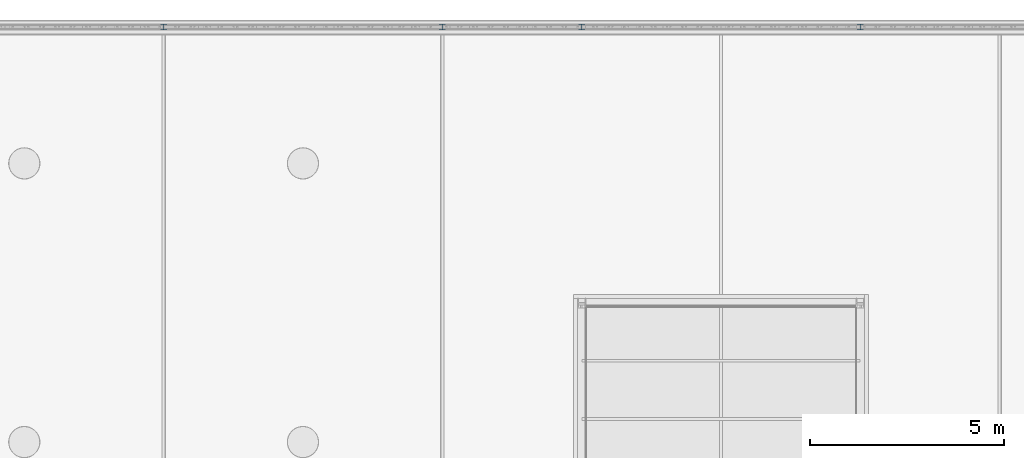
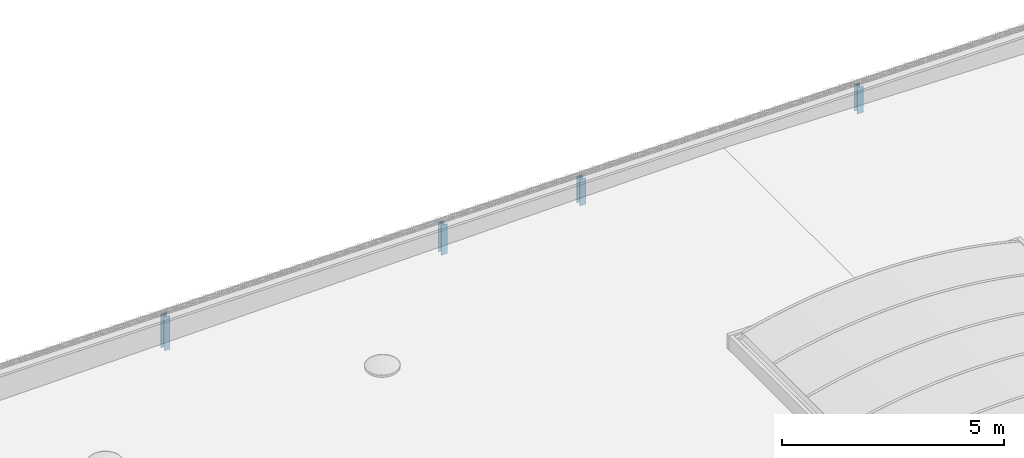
# One storey, part 29 of 81: 4 columns.
"""IFC2X3 building model written with IfcOpenShell, lengths in millimetres."""

from ifc_helpers import new_model, entity, si_unit, converted_unit, derived_unit, money_unit, direction, frame, origin_with_axes, place, context, subcontext, project, spatial, faceted_brep, material, type_object, element, save


model = new_model("IFC2X3")

# Units and contexts
model_context = context("Model", 3, precision=0.01, world=origin_with_axes(), true_north=direction((0.0, 1.0)))
body_context = subcontext(model_context, "Body", "Model", "MODEL_VIEW")
ifc_project = project(units=[si_unit("LENGTHUNIT", "METRE", prefix="MILLI"), si_unit("AREAUNIT", "SQUARE_METRE"), si_unit("VOLUMEUNIT", "CUBIC_METRE"), converted_unit("PLANEANGLEUNIT", "DEGREE", entity("IfcPlaneAngleMeasure", 0.0174532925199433), si_unit("PLANEANGLEUNIT", "RADIAN"), dimensions=[0, 0, 0, 0, 0, 0, 0]), money_unit("EUR"), converted_unit("TIMEUNIT", "Year", entity("IfcTimeMeasure", 31557600.0), si_unit("TIMEUNIT", "SECOND"), dimensions=[0, 0, 1, 0, 0, 0, 0]), si_unit("MASSUNIT", "GRAM", prefix="KILO"), si_unit("THERMODYNAMICTEMPERATUREUNIT", "DEGREE_CELSIUS"), si_unit("LUMINOUSINTENSITYUNIT", "LUMEN"), si_unit("ENERGYUNIT", "JOULE", prefix="MEGA"), derived_unit("THERMALCONDUCTANCEUNIT", [(si_unit("POWERUNIT", "WATT"), 1), (si_unit("LENGTHUNIT", "METRE"), -1), (si_unit("THERMODYNAMICTEMPERATUREUNIT", "KELVIN"), -1)]), derived_unit("SPECIFICHEATCAPACITYUNIT", [(si_unit("ENERGYUNIT", "JOULE"), 1), (si_unit("MASSUNIT", "GRAM", prefix="KILO"), -1), (si_unit("THERMODYNAMICTEMPERATUREUNIT", "KELVIN"), -1)]), derived_unit("MASSDENSITYUNIT", [(si_unit("MASSUNIT", "GRAM", prefix="KILO"), 1), (si_unit("VOLUMEUNIT", "CUBIC_METRE"), -1)])], contexts=[model_context])

# Site, building, storey
site_placement = place(None, origin_with_axes())
site = spatial("IfcSite", under=ifc_project, at=site_placement, Name="Site", CompositionType="ELEMENT")
building_placement = place(site_placement, origin_with_axes())
building = spatial("IfcBuilding", under=site, at=building_placement, Name="Naam gebouw", CompositionType="ELEMENT")
storey_placement = place(building_placement, frame((0.0, 0.0, 15320.0), z_axis=(0.0, 0.0, 1.0), x_axis=(1.0, 0.0, 0.0)))
storey = spatial("IfcBuildingStorey", under=building, at=storey_placement, Name="01 dak", CompositionType="ELEMENT", Elevation=15320.0)

# Columns
ifc_material = material(Name="Metaal - Staal C")
column_type = type_object("IfcColumnType", Name="HEA160 160 x 152", PredefinedType="COLUMN")
column_1_placement = place(storey_placement, frame((90899.99999999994, 119524.0, -271.9226341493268), z_axis=(0.0, 0.0, 1.0), x_axis=(1.0, 0.0, 0.0)))
element("IfcColumn", 1, at=column_1_placement, inside=storey, type_object=column_type, material=ifc_material, Name="HEA160", ObjectType="COLUMN", context=body_context, shape_type="Brep", body=[
    faceted_brep([(-79.9999999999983, 75.9999999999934, 926.8832744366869), (-79.9999999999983, 75.9999999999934, 0.0), (-79.9999999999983, 66.99999999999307, 0.0), (-79.9999999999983, 66.99999999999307, 926.8832744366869), (79.9999999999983, 75.9999999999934, 926.8832744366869), (79.9999999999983, 75.9999999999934, 0.0), (79.9999999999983, 66.99999999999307, 0.0), (3.000000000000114, 66.99999999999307, 0.0), (3.000000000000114, -66.99999999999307, 0.0), (79.9999999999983, -66.99999999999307, 0.0), (79.9999999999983, -75.9999999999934, 0.0), (-79.9999999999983, -75.9999999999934, 0.0), (-79.9999999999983, -66.99999999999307, 0.0), (-3.000000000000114, -66.99999999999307, 0.0), (-3.000000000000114, 66.99999999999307, 0.0), (-3.000000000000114, 66.99999999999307, 926.8832744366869), (-3.000000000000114, -66.99999999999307, 926.8832744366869), (-79.9999999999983, -66.99999999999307, 926.8832744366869), (-79.9999999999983, -75.9999999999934, 926.8832744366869), (79.9999999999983, -75.9999999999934, 926.8832744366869), (79.9999999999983, -66.99999999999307, 926.8832744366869), (3.000000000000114, -66.99999999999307, 926.8832744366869), (3.000000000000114, 66.99999999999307, 926.8832744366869), (79.9999999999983, 66.99999999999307, 926.8832744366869)], [[[0, 1, 2, 3]], [[4, 5, 1, 0]], [[2, 1, 5, 6, 7, 8, 9, 10, 11, 12, 13, 14]], [[3, 2, 14, 15]], [[4, 0, 3, 15, 16, 17, 18, 19, 20, 21, 22, 23]], [[23, 6, 5, 4]], [[22, 7, 6, 23]], [[21, 8, 7, 22]], [[20, 9, 8, 21]], [[19, 10, 9, 20]], [[18, 11, 10, 19]], [[17, 12, 11, 18]], [[16, 13, 12, 17]], [[15, 14, 13, 16]]]),
])
column_2_placement = place(storey_placement, frame((98099.99999999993, 119524.0, -165.0000000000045), z_axis=(0.0, 0.0, 1.0), x_axis=(1.0, 0.0, 0.0)))
element("IfcColumn", 2, at=column_2_placement, inside=storey, type_object=column_type, material=ifc_material, Name="HEA160", ObjectType="COLUMN", context=body_context, shape_type="Brep", body=[
    faceted_brep([(-79.9999999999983, 75.9999999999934, 819.9606402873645), (-79.9999999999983, 75.9999999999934, 0.0), (-79.9999999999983, 66.99999999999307, 0.0), (-79.9999999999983, 66.99999999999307, 819.9606402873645), (79.9999999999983, 75.9999999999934, 819.9606402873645), (79.9999999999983, 75.9999999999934, 0.0), (79.9999999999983, 66.99999999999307, 0.0), (3.000000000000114, 66.99999999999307, 0.0), (3.000000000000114, -66.99999999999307, 0.0), (79.9999999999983, -66.99999999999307, 0.0), (79.9999999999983, -75.9999999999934, 0.0), (-79.9999999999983, -75.9999999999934, 0.0), (-79.9999999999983, -66.99999999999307, 0.0), (-3.000000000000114, -66.99999999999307, 0.0), (-3.000000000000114, 66.99999999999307, 0.0), (-3.000000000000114, 66.99999999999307, 819.9606402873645), (-3.000000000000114, -66.99999999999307, 819.9606402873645), (-79.9999999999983, -66.99999999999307, 819.9606402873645), (-79.9999999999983, -75.9999999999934, 819.9606402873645), (79.9999999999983, -75.9999999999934, 819.9606402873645), (79.9999999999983, -66.99999999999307, 819.9606402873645), (3.000000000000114, -66.99999999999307, 819.9606402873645), (3.000000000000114, 66.99999999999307, 819.9606402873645), (79.9999999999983, 66.99999999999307, 819.9606402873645)], [[[0, 1, 2, 3]], [[4, 5, 1, 0]], [[2, 1, 5, 6, 7, 8, 9, 10, 11, 12, 13, 14]], [[3, 2, 14, 15]], [[4, 0, 3, 15, 16, 17, 18, 19, 20, 21, 22, 23]], [[23, 6, 5, 4]], [[22, 7, 6, 23]], [[21, 8, 7, 22]], [[20, 9, 8, 21]], [[19, 10, 9, 20]], [[18, 11, 10, 19]], [[17, 12, 11, 18]], [[16, 13, 12, 17]], [[15, 14, 13, 16]]]),
])
column_3_placement = place(storey_placement, frame((101699.9999999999, 119524.0, -72.09454259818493), z_axis=(0.0, 0.0, 1.0), x_axis=(-1.0, 0.0, 0.0)))
element("IfcColumn", 3, at=column_3_placement, inside=storey, type_object=column_type, material=ifc_material, Name="HEA160", ObjectType="COLUMN", context=body_context, shape_type="Brep", body=[
    faceted_brep([(-80.0000000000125, 75.9999999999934, 727.0551828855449), (-80.0000000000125, 75.9999999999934, 0.0), (-80.0000000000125, 66.99999999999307, 0.0), (-80.0000000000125, 66.99999999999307, 727.0551828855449), (79.99999999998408, 75.9999999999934, 727.0551828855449), (79.99999999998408, 75.9999999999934, 0.0), (79.99999999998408, 66.99999999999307, 0.0), (2.999999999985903, 66.99999999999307, 0.0), (3.000000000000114, -66.99999999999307, 0.0), (79.9999999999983, -66.99999999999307, 0.0), (79.9999999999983, -75.9999999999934, 0.0), (-79.9999999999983, -75.9999999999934, 0.0), (-79.9999999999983, -66.99999999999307, 0.0), (-3.000000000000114, -66.99999999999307, 0.0), (-3.000000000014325, 66.99999999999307, 0.0), (-3.000000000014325, 66.99999999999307, 727.0551828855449), (-3.000000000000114, -66.99999999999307, 727.0551828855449), (-79.9999999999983, -66.99999999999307, 727.0551828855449), (-79.9999999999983, -75.9999999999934, 727.0551828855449), (79.9999999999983, -75.9999999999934, 727.0551828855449), (79.9999999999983, -66.99999999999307, 727.0551828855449), (3.000000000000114, -66.99999999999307, 727.0551828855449), (2.999999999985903, 66.99999999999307, 727.0551828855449), (79.99999999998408, 66.99999999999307, 727.0551828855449)], [[[0, 1, 2, 3]], [[4, 5, 1, 0]], [[2, 1, 5, 6, 7, 8, 9, 10, 11, 12, 13, 14]], [[3, 2, 14, 15]], [[4, 0, 3, 15, 16, 17, 18, 19, 20, 21, 22, 23]], [[23, 6, 5, 4]], [[22, 7, 6, 23]], [[21, 8, 7, 22]], [[20, 9, 8, 21]], [[19, 10, 9, 20]], [[18, 11, 10, 19]], [[17, 12, 11, 18]], [[16, 13, 12, 17]], [[15, 14, 13, 16]]]),
])
column_4_placement = place(storey_placement, frame((108899.9999999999, 119524.0, -72.30828128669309), z_axis=(0.0, 0.0, 1.0), x_axis=(-1.0, 0.0, 0.0)))
element("IfcColumn", 4, at=column_4_placement, inside=storey, type_object=column_type, material=ifc_material, Name="HEA160", ObjectType="COLUMN", context=body_context, shape_type="Brep", body=[
    faceted_brep([(-80.0000000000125, 75.9999999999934, 727.2689215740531), (-80.0000000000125, 75.9999999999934, 0.0), (-80.0000000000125, 66.99999999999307, 0.0), (-80.0000000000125, 66.99999999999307, 727.2689215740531), (79.99999999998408, 75.9999999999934, 727.2689215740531), (79.99999999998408, 75.9999999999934, 0.0), (79.99999999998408, 66.99999999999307, 0.0), (2.999999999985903, 66.99999999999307, 0.0), (3.000000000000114, -66.99999999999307, 0.0), (79.9999999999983, -66.99999999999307, 0.0), (79.9999999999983, -75.9999999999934, 0.0), (-79.9999999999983, -75.9999999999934, 0.0), (-79.9999999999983, -66.99999999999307, 0.0), (-3.000000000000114, -66.99999999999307, 0.0), (-3.000000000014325, 66.99999999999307, 0.0), (-3.000000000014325, 66.99999999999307, 727.2689215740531), (-3.000000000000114, -66.99999999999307, 727.2689215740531), (-79.9999999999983, -66.99999999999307, 727.2689215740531), (-79.9999999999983, -75.9999999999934, 727.2689215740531), (79.9999999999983, -75.9999999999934, 727.2689215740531), (79.9999999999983, -66.99999999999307, 727.2689215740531), (3.000000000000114, -66.99999999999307, 727.2689215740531), (2.999999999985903, 66.99999999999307, 727.2689215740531), (79.99999999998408, 66.99999999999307, 727.2689215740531)], [[[0, 1, 2, 3]], [[4, 5, 1, 0]], [[2, 1, 5, 6, 7, 8, 9, 10, 11, 12, 13, 14]], [[3, 2, 14, 15]], [[4, 0, 3, 15, 16, 17, 18, 19, 20, 21, 22, 23]], [[23, 6, 5, 4]], [[22, 7, 6, 23]], [[21, 8, 7, 22]], [[20, 9, 8, 21]], [[19, 10, 9, 20]], [[18, 11, 10, 19]], [[17, 12, 11, 18]], [[16, 13, 12, 17]], [[15, 14, 13, 16]]]),
])

save(model, "model.ifc")
